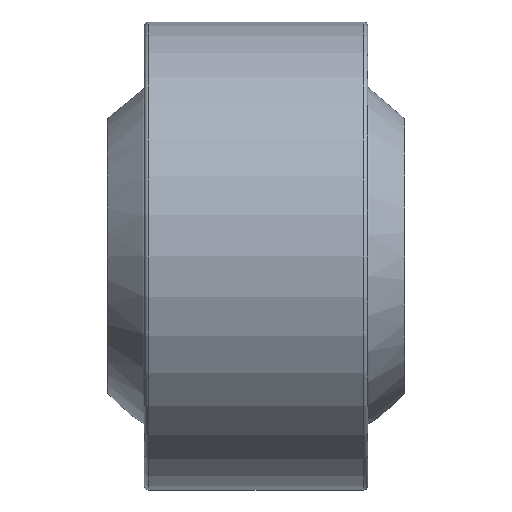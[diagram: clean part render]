
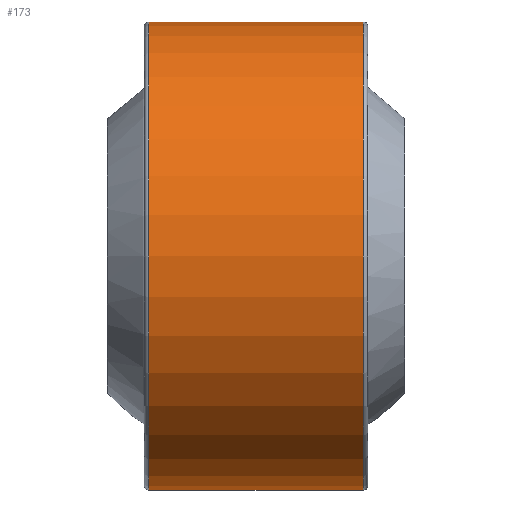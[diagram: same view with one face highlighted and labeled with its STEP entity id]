
A CAD part, front view. The second image highlights one B-rep face of the part: STEP entity #173.
In plain terms, the highlighted cylindrical face has radius 11 mm (diameter 22 mm), a full revolution.
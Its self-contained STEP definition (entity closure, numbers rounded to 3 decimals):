
#173 = ADVANCED_FACE( '', ( #195, #196, #197 ), #198, .T. );
#195 = FACE_OUTER_BOUND( '', #231, .T. );
#196 = FACE_BOUND( '', #232, .T. );
#197 = FACE_OUTER_BOUND( '', #233, .T. );
#198 = CYLINDRICAL_SURFACE( '', #234, 11. );
#231 = EDGE_LOOP( '', ( #274 ) );
#232 = EDGE_LOOP( '', ( #275 ) );
#233 = EDGE_LOOP( '', ( #276 ) );
#234 = AXIS2_PLACEMENT_3D( '', #277, #278, #279 );
#274 = ORIENTED_EDGE( '', *, *, #316, .T. );
#275 = ORIENTED_EDGE( '', *, *, #317, .T. );
#276 = ORIENTED_EDGE( '', *, *, #314, .F. );
#277 = CARTESIAN_POINT( '', ( 5.25, 0., 0. ) );
#278 = DIRECTION( '', ( -1., 0., 0. ) );
#279 = DIRECTION( '', ( 0., 0., -1. ) );
#314 = EDGE_CURVE( '', #330, #330, #331, .T. );
#316 = EDGE_CURVE( '', #334, #334, #335, .T. );
#317 = EDGE_CURVE( '', #336, #336, #337, .T. );
#330 = VERTEX_POINT( '', #354 );
#331 = CIRCLE( '', #355, 11. );
#334 = VERTEX_POINT( '', #358 );
#335 = CIRCLE( '', #359, 11. );
#336 = VERTEX_POINT( '', #360 );
#337 = B_SPLINE_CURVE_WITH_KNOTS( '', 3, ( #361, #362, #363, #364, #365, #366, #367, #368, #369, #370, #371, #372, #373, #374, #375, #376, #377, #378, #379, #380, #381, #382, #383, #384, #385, #386, #387, #388, #389, #390, #391, #392 ), .UNSPECIFIED., .T., .F., ( 2, 2, 2, 2, 2, 2, 2, 2, 2, 2, 2, 2, 2, 2, 2, 2, 2, 2 ), ( -0.001, 0., 0., 0.001, 0.001, 0.001, 0.002, 0.002, 0.002, 0.003, 0.003, 0.003, 0.004, 0.004, 0.004, 0.005, 0.005, 0.006 ), .UNSPECIFIED. );
#354 = CARTESIAN_POINT( '', ( 5.05, 0., -11. ) );
#355 = AXIS2_PLACEMENT_3D( '', #413, #414, #415 );
#358 = CARTESIAN_POINT( '', ( -5.05, 0., -11. ) );
#359 = AXIS2_PLACEMENT_3D( '', #419, #420, #421 );
#360 = CARTESIAN_POINT( '', ( 0.85, 11., 0. ) );
#361 = CARTESIAN_POINT( '', ( 0.85, 11., -0.225 ) );
#362 = CARTESIAN_POINT( '', ( 0.85, 11., 0.112 ) );
#363 = CARTESIAN_POINT( '', ( 0.828, 10.998, 0.223 ) );
#364 = CARTESIAN_POINT( '', ( 0.743, 10.992, 0.428 ) );
#365 = CARTESIAN_POINT( '', ( 0.679, 10.988, 0.523 ) );
#366 = CARTESIAN_POINT( '', ( 0.523, 10.979, 0.679 ) );
#367 = CARTESIAN_POINT( '', ( 0.428, 10.975, 0.743 ) );
#368 = CARTESIAN_POINT( '', ( 0.223, 10.969, 0.828 ) );
#369 = CARTESIAN_POINT( '', ( 0.111, 10.967, 0.85 ) );
#370 = CARTESIAN_POINT( '', ( -0.11, 10.967, 0.85 ) );
#371 = CARTESIAN_POINT( '', ( -0.222, 10.969, 0.828 ) );
#372 = CARTESIAN_POINT( '', ( -0.428, 10.975, 0.743 ) );
#373 = CARTESIAN_POINT( '', ( -0.521, 10.979, 0.681 ) );
#374 = CARTESIAN_POINT( '', ( -0.68, 10.988, 0.522 ) );
#375 = CARTESIAN_POINT( '', ( -0.743, 10.992, 0.428 ) );
#376 = CARTESIAN_POINT( '', ( -0.828, 10.998, 0.223 ) );
#377 = CARTESIAN_POINT( '', ( -0.85, 11., 0.111 ) );
#378 = CARTESIAN_POINT( '', ( -0.85, 11., -0.111 ) );
#379 = CARTESIAN_POINT( '', ( -0.828, 10.998, -0.223 ) );
#380 = CARTESIAN_POINT( '', ( -0.743, 10.992, -0.427 ) );
#381 = CARTESIAN_POINT( '', ( -0.68, 10.988, -0.522 ) );
#382 = CARTESIAN_POINT( '', ( -0.523, 10.979, -0.679 ) );
#383 = CARTESIAN_POINT( '', ( -0.429, 10.975, -0.742 ) );
#384 = CARTESIAN_POINT( '', ( -0.223, 10.969, -0.828 ) );
#385 = CARTESIAN_POINT( '', ( -0.113, 10.967, -0.85 ) );
#386 = CARTESIAN_POINT( '', ( 0.111, 10.967, -0.85 ) );
#387 = CARTESIAN_POINT( '', ( 0.222, 10.969, -0.828 ) );
#388 = CARTESIAN_POINT( '', ( 0.428, 10.975, -0.743 ) );
#389 = CARTESIAN_POINT( '', ( 0.522, 10.979, -0.68 ) );
#390 = CARTESIAN_POINT( '', ( 0.758, 10.992, -0.445 ) );
#391 = CARTESIAN_POINT( '', ( 0.85, 11., -0.225 ) );
#392 = CARTESIAN_POINT( '', ( 0.85, 11., 0.112 ) );
#413 = CARTESIAN_POINT( '', ( 5.05, 0., 0. ) );
#414 = DIRECTION( '', ( 1., 0., 0. ) );
#415 = DIRECTION( '', ( 0., 0., -1. ) );
#419 = CARTESIAN_POINT( '', ( -5.05, 0., 0. ) );
#420 = DIRECTION( '', ( 1., 0., 0. ) );
#421 = DIRECTION( '', ( 0., 0., -1. ) );
